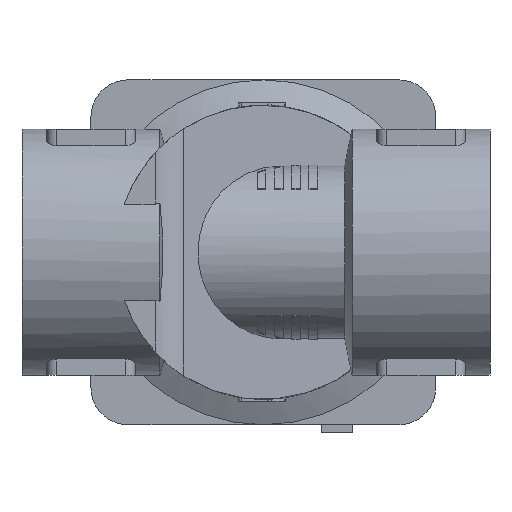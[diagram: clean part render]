
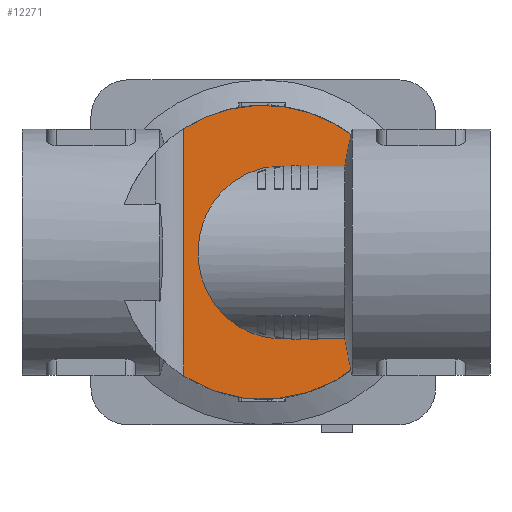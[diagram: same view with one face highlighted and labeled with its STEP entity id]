
A CAD part, front view. The second image highlights one B-rep face of the part: STEP entity #12271.
In plain terms, the highlighted planar face has unit normal (0.724, -0.69, 0).
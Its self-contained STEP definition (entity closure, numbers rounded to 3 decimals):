
#62=ELLIPSE('',#12814,43.243,29.85);
#67=ELLIPSE('',#12826,43.243,29.85);
#78=ELLIPSE('',#12856,24.186,17.5);
#85=ELLIPSE('',#12957,34.552,25.);
#86=ELLIPSE('',#12958,34.552,25.);
#121=B_SPLINE_CURVE_WITH_KNOTS('',3,(#17292,#17293,#17294,#17295),
 .UNSPECIFIED.,.F.,.F.,(4,4),(0.,0.002),
 .UNSPECIFIED.);
#122=B_SPLINE_CURVE_WITH_KNOTS('',3,(#17307,#17308,#17309,#17310),
 .UNSPECIFIED.,.F.,.F.,(4,4),(0.007,0.009),
 .UNSPECIFIED.);
#390=LINE('',#17025,#1467);
#392=LINE('',#17029,#1469);
#483=LINE('',#17300,#1560);
#484=LINE('',#17302,#1561);
#485=LINE('',#17303,#1562);
#486=LINE('',#17312,#1563);
#487=LINE('',#17313,#1564);
#1467=VECTOR('',#14054,1000.);
#1469=VECTOR('',#14058,1000.);
#1560=VECTOR('',#14325,1000.);
#1561=VECTOR('',#14326,1000.);
#1562=VECTOR('',#14327,1000.);
#1563=VECTOR('',#14330,1000.);
#1564=VECTOR('',#14331,1000.);
#3113=ORIENTED_EDGE('',*,*,#5713,.F.);
#3114=ORIENTED_EDGE('',*,*,#5714,.F.);
#3115=ORIENTED_EDGE('',*,*,#5715,.F.);
#3116=ORIENTED_EDGE('',*,*,#5716,.F.);
#3117=ORIENTED_EDGE('',*,*,#5487,.F.);
#3118=ORIENTED_EDGE('',*,*,#5582,.T.);
#3119=ORIENTED_EDGE('',*,*,#5511,.F.);
#3120=ORIENTED_EDGE('',*,*,#5584,.F.);
#3121=ORIENTED_EDGE('',*,*,#5717,.F.);
#3122=ORIENTED_EDGE('',*,*,#5718,.F.);
#3123=ORIENTED_EDGE('',*,*,#5719,.F.);
#3124=ORIENTED_EDGE('',*,*,#5720,.F.);
#3125=ORIENTED_EDGE('',*,*,#5557,.T.);
#3126=ORIENTED_EDGE('',*,*,#5721,.F.);
#5487=EDGE_CURVE('',#6879,#6880,#62,.F.);
#5511=EDGE_CURVE('',#6903,#6904,#67,.F.);
#5557=EDGE_CURVE('',#6950,#6949,#78,.F.);
#5582=EDGE_CURVE('',#6879,#6904,#390,.T.);
#5584=EDGE_CURVE('',#6968,#6903,#392,.T.);
#5713=EDGE_CURVE('',#7046,#7047,#121,.T.);
#5714=EDGE_CURVE('',#7048,#7046,#85,.T.);
#5715=EDGE_CURVE('',#7049,#7048,#483,.T.);
#5716=EDGE_CURVE('',#6880,#7049,#484,.T.);
#5717=EDGE_CURVE('',#7050,#6968,#485,.T.);
#5718=EDGE_CURVE('',#7051,#7050,#86,.T.);
#5719=EDGE_CURVE('',#7052,#7051,#122,.T.);
#5720=EDGE_CURVE('',#6950,#7052,#486,.T.);
#5721=EDGE_CURVE('',#7047,#6949,#487,.T.);
#6879=VERTEX_POINT('',#16737);
#6880=VERTEX_POINT('',#16739);
#6903=VERTEX_POINT('',#16826);
#6904=VERTEX_POINT('',#16828);
#6949=VERTEX_POINT('',#16959);
#6950=VERTEX_POINT('',#16961);
#6968=VERTEX_POINT('',#17028);
#7046=VERTEX_POINT('',#17296);
#7047=VERTEX_POINT('',#17297);
#7048=VERTEX_POINT('',#17299);
#7049=VERTEX_POINT('',#17301);
#7050=VERTEX_POINT('',#17304);
#7051=VERTEX_POINT('',#17306);
#7052=VERTEX_POINT('',#17311);
#8148=EDGE_LOOP('',(#3113,#3114,#3115,#3116,#3117,#3118,#3119,#3120,#3121,
#3122,#3123,#3124,#3125,#3126));
#8722=FACE_BOUND('',#8148,.T.);
#9241=PLANE('',#12956);
#12271=ADVANCED_FACE('',(#8722),#9241,.T.);
#12814=AXIS2_PLACEMENT_3D('',#16738,#13918,#13919);
#12826=AXIS2_PLACEMENT_3D('',#16827,#13946,#13947);
#12856=AXIS2_PLACEMENT_3D('',#16960,#14015,#14016);
#12956=AXIS2_PLACEMENT_3D('',#17291,#14321,#14322);
#12957=AXIS2_PLACEMENT_3D('',#17298,#14323,#14324);
#12958=AXIS2_PLACEMENT_3D('',#17305,#14328,#14329);
#13918=DIRECTION('',(0.724,-0.69,0.));
#13919=DIRECTION('',(0.69,0.724,0.));
#13946=DIRECTION('',(0.724,-0.69,0.));
#13947=DIRECTION('',(0.69,0.724,0.));
#14015=DIRECTION('',(0.724,-0.69,0.));
#14016=DIRECTION('',(-0.69,-0.724,0.));
#14054=DIRECTION('',(0.,0.,-1.));
#14058=DIRECTION('',(0.,0.,-1.));
#14321=DIRECTION('',(0.724,-0.69,0.));
#14322=DIRECTION('',(0.69,0.724,0.));
#14323=DIRECTION('',(0.724,-0.69,0.));
#14324=DIRECTION('',(0.69,0.724,0.));
#14325=DIRECTION('',(-0.69,-0.724,0.));
#14326=DIRECTION('',(0.,0.,-1.));
#14327=DIRECTION('',(0.69,0.724,0.));
#14328=DIRECTION('',(0.724,-0.69,0.));
#14329=DIRECTION('',(0.69,0.724,0.));
#14330=DIRECTION('',(0.69,0.724,0.));
#14331=DIRECTION('',(-0.69,-0.724,0.));
#16737=CARTESIAN_POINT('',(-16.136,-20.522,25.113));
#16738=CARTESIAN_POINT('',(0.,-3.608,0.));
#16739=CARTESIAN_POINT('',(23.,20.5,19.027));
#16826=CARTESIAN_POINT('',(23.,20.5,-19.027));
#16827=CARTESIAN_POINT('',(0.,-3.608,0.));
#16828=CARTESIAN_POINT('',(-16.136,-20.522,-25.113));
#16959=CARTESIAN_POINT('',(3.443,0.,17.5));
#16960=CARTESIAN_POINT('',(3.443,0.,0.));
#16961=CARTESIAN_POINT('',(3.443,0.,-17.5));
#17025=CARTESIAN_POINT('',(-16.136,-20.522,70.));
#17028=CARTESIAN_POINT('',(23.,20.5,-17.5));
#17029=CARTESIAN_POINT('',(23.,20.5,70.));
#17291=CARTESIAN_POINT('',(23.,20.5,70.));
#17292=CARTESIAN_POINT('',(18.,15.259,19.803));
#17293=CARTESIAN_POINT('',(17.861,15.113,19.036));
#17294=CARTESIAN_POINT('',(17.723,14.969,18.268));
#17295=CARTESIAN_POINT('',(17.587,14.826,17.5));
#17296=CARTESIAN_POINT('',(18.,15.259,19.803));
#17297=CARTESIAN_POINT('',(17.587,14.826,17.5));
#17298=CARTESIAN_POINT('',(3.443,0.,0.));
#17299=CARTESIAN_POINT('',(20.475,17.854,17.5));
#17300=CARTESIAN_POINT('',(23.,20.5,17.5));
#17301=CARTESIAN_POINT('',(23.,20.5,17.5));
#17302=CARTESIAN_POINT('',(23.,20.5,70.));
#17303=CARTESIAN_POINT('',(23.,20.5,-17.5));
#17304=CARTESIAN_POINT('',(20.475,17.854,-17.5));
#17305=CARTESIAN_POINT('',(3.443,0.,0.));
#17306=CARTESIAN_POINT('',(18.,15.259,-19.803));
#17307=CARTESIAN_POINT('',(17.587,14.826,-17.5));
#17308=CARTESIAN_POINT('',(17.723,14.969,-18.268));
#17309=CARTESIAN_POINT('',(17.861,15.113,-19.036));
#17310=CARTESIAN_POINT('',(18.,15.259,-19.803));
#17311=CARTESIAN_POINT('',(17.587,14.826,-17.5));
#17312=CARTESIAN_POINT('',(23.,20.5,-17.5));
#17313=CARTESIAN_POINT('',(23.,20.5,17.5));
